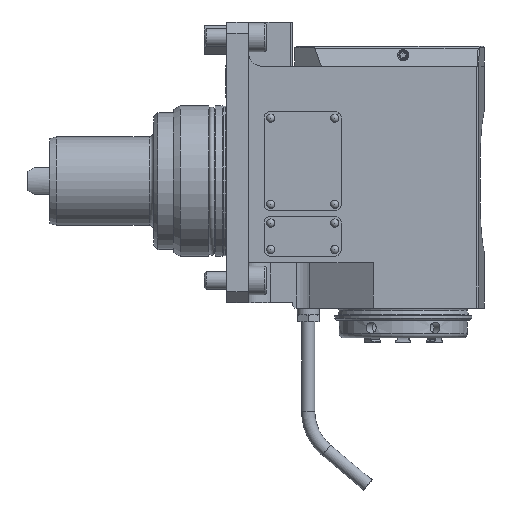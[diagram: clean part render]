
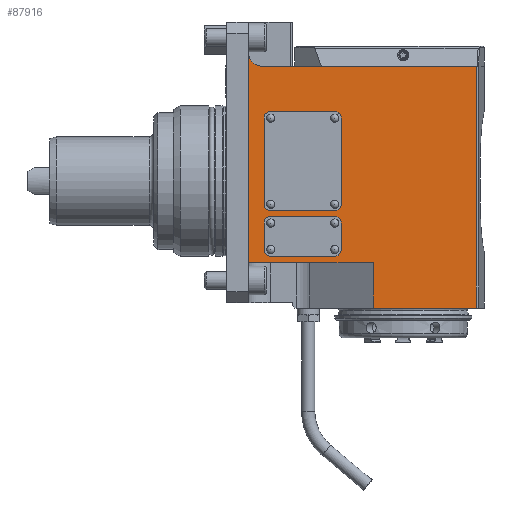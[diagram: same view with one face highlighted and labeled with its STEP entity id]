
A CAD part, front view. The second image highlights one B-rep face of the part: STEP entity #87916.
In plain terms, the highlighted planar face has unit normal (0, -1, 0) as drawn and (0, 0, -1) by its records, which use the part's own axes.
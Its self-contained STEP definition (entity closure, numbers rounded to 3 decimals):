
#1283=VECTOR('',#58977,1.);
#1289=VECTOR('',#58997,1.);
#1291=VECTOR('',#59007,1.);
#1302=VECTOR('',#59028,1.);
#1303=VECTOR('',#59029,1.);
#1304=VECTOR('',#59030,1.);
#2443=LINE('',#77374,#1283);
#2449=LINE('',#77392,#1289);
#2451=LINE('',#77402,#1291);
#2462=LINE('',#77430,#1302);
#2463=LINE('',#77432,#1303);
#2464=LINE('',#77433,#1304);
#35712=PLANE('',#84754);
#39412=ORIENTED_EDGE('',*,*,#47730,.T.);
#39413=ORIENTED_EDGE('',*,*,#47703,.T.);
#39414=ORIENTED_EDGE('',*,*,#47712,.F.);
#39415=ORIENTED_EDGE('',*,*,#47731,.T.);
#39416=ORIENTED_EDGE('',*,*,#47716,.F.);
#39417=ORIENTED_EDGE('',*,*,#47732,.T.);
#39418=ORIENTED_EDGE('',*,*,#47733,.F.);
#39419=ORIENTED_EDGE('',*,*,#47734,.T.);
#39420=ORIENTED_EDGE('',*,*,#47735,.F.);
#39421=ORIENTED_EDGE('',*,*,#47736,.T.);
#39422=ORIENTED_EDGE('',*,*,#47737,.T.);
#39423=ORIENTED_EDGE('',*,*,#47738,.T.);
#39424=ORIENTED_EDGE('',*,*,#47739,.T.);
#39425=ORIENTED_EDGE('',*,*,#47740,.T.);
#39426=ORIENTED_EDGE('',*,*,#47741,.T.);
#39427=ORIENTED_EDGE('',*,*,#47742,.T.);
#43074=CIRCLE('',#84755,6.);
#43075=CIRCLE('',#84756,1.);
#43076=CIRCLE('',#84757,3.);
#43077=CIRCLE('',#84758,1.);
#43078=CIRCLE('',#84759,1.);
#43079=CIRCLE('',#84760,1.);
#43080=CIRCLE('',#84761,1.);
#43081=CIRCLE('',#84762,1.);
#43082=CIRCLE('',#84763,1.);
#43083=CIRCLE('',#84764,1.);
#44991=VERTEX_POINT('',#77371);
#44992=VERTEX_POINT('',#77373);
#44997=VERTEX_POINT('',#77390);
#45000=VERTEX_POINT('',#77400);
#45001=VERTEX_POINT('',#77401);
#45013=VERTEX_POINT('',#77428);
#45014=VERTEX_POINT('',#77431);
#45015=VERTEX_POINT('',#77434);
#45016=VERTEX_POINT('',#77436);
#45017=VERTEX_POINT('',#77438);
#45018=VERTEX_POINT('',#77440);
#45019=VERTEX_POINT('',#77442);
#45020=VERTEX_POINT('',#77444);
#45021=VERTEX_POINT('',#77446);
#45022=VERTEX_POINT('',#77448);
#45023=VERTEX_POINT('',#77450);
#47703=EDGE_CURVE('',#44992,#44991,#2443,.T.);
#47712=EDGE_CURVE('',#44997,#44991,#2449,.T.);
#47716=EDGE_CURVE('',#45000,#45001,#2451,.T.);
#47730=EDGE_CURVE('',#45013,#44992,#43074,.T.);
#47731=EDGE_CURVE('',#44997,#45001,#2462,.T.);
#47732=EDGE_CURVE('',#45000,#45014,#2463,.T.);
#47733=EDGE_CURVE('',#45013,#45014,#2464,.T.);
#47734=EDGE_CURVE('',#45015,#45015,#43075,.T.);
#47735=EDGE_CURVE('',#45016,#45016,#43076,.T.);
#47736=EDGE_CURVE('',#45017,#45017,#43077,.T.);
#47737=EDGE_CURVE('',#45018,#45018,#43078,.T.);
#47738=EDGE_CURVE('',#45019,#45019,#43079,.T.);
#47739=EDGE_CURVE('',#45020,#45020,#43080,.T.);
#47740=EDGE_CURVE('',#45021,#45021,#43081,.T.);
#47741=EDGE_CURVE('',#45022,#45022,#43082,.T.);
#47742=EDGE_CURVE('',#45023,#45023,#43083,.T.);
#50584=EDGE_LOOP('',(#39412,#39413,#39414,#39415,#39416,#39417,#39418));
#50585=EDGE_LOOP('',(#39419));
#50586=EDGE_LOOP('',(#39420));
#50587=EDGE_LOOP('',(#39421));
#50588=EDGE_LOOP('',(#39422));
#50589=EDGE_LOOP('',(#39423));
#50590=EDGE_LOOP('',(#39424));
#50591=EDGE_LOOP('',(#39425));
#50592=EDGE_LOOP('',(#39426));
#50593=EDGE_LOOP('',(#39427));
#53395=FACE_BOUND('',#50584,.T.);
#53396=FACE_BOUND('',#50585,.T.);
#53397=FACE_BOUND('',#50586,.T.);
#53398=FACE_BOUND('',#50587,.T.);
#53399=FACE_BOUND('',#50588,.T.);
#53400=FACE_BOUND('',#50589,.T.);
#53401=FACE_BOUND('',#50590,.T.);
#53402=FACE_BOUND('',#50591,.T.);
#53403=FACE_BOUND('',#50592,.T.);
#53404=FACE_BOUND('',#50593,.T.);
#58977=DIRECTION('',(95.,0.,0.));
#58997=DIRECTION('',(0.,56.419,0.));
#59007=DIRECTION('',(0.,46.706,0.));
#59024=DIRECTION('',(0.,0.,-1.));
#59025=DIRECTION('',(0.,1.,0.));
#59026=DIRECTION('',(0.,0.,1.));
#59027=DIRECTION('',(-6.,0.,0.));
#59028=DIRECTION('',(20.5,0.,0.));
#59029=DIRECTION('',(-109.5,0.,0.));
#59030=DIRECTION('',(0.,-97.125,0.));
#59031=DIRECTION('',(0.,0.,1.));
#59032=DIRECTION('',(-1.,0.,0.));
#59033=DIRECTION('',(0.,0.,-1.));
#59034=DIRECTION('',(3.,0.,0.));
#59035=DIRECTION('',(0.,0.,1.));
#59036=DIRECTION('',(-1.,0.,0.));
#59037=DIRECTION('',(0.,0.,1.));
#59038=DIRECTION('',(-1.,0.,0.));
#59039=DIRECTION('',(0.,0.,1.));
#59040=DIRECTION('',(-1.,0.,0.));
#59041=DIRECTION('',(0.,0.,1.));
#59042=DIRECTION('',(-1.,0.,0.));
#59043=DIRECTION('',(0.,0.,1.));
#59044=DIRECTION('',(-1.,0.,0.));
#59045=DIRECTION('',(0.,0.,1.));
#59046=DIRECTION('',(-1.,0.,0.));
#59047=DIRECTION('',(0.,0.,1.));
#59048=DIRECTION('',(-1.,0.,0.));
#77371=CARTESIAN_POINT('',(37.,30.,-38.));
#77373=CARTESIAN_POINT('',(-58.,30.,-38.));
#77374=CARTESIAN_POINT('',(-58.,30.,-38.));
#77390=CARTESIAN_POINT('',(37.,-26.419,-38.));
#77392=CARTESIAN_POINT('',(37.,-26.419,-38.));
#77400=CARTESIAN_POINT('',(57.5,-73.125,-38.));
#77401=CARTESIAN_POINT('',(57.5,-26.419,-38.));
#77402=CARTESIAN_POINT('',(57.5,-73.125,-38.));
#77427=CARTESIAN_POINT('',(-52.,24.,-38.));
#77428=CARTESIAN_POINT('',(-52.,24.,-38.));
#77429=CARTESIAN_POINT('',(-58.,24.,-38.));
#77430=CARTESIAN_POINT('',(37.,-26.419,-38.));
#77431=CARTESIAN_POINT('',(-52.,-73.125,-38.));
#77432=CARTESIAN_POINT('',(57.5,-73.125,-38.));
#77433=CARTESIAN_POINT('',(-52.,24.,-38.));
#77434=CARTESIAN_POINT('',(30.,-9.,-38.));
#77435=CARTESIAN_POINT('',(31.,-9.,-38.));
#77436=CARTESIAN_POINT('',(31.3,3.,-38.));
#77437=CARTESIAN_POINT('',(28.3,3.,-38.));
#77438=CARTESIAN_POINT('',(-29.5,20.,-38.));
#77439=CARTESIAN_POINT('',(-28.5,20.,-38.));
#77440=CARTESIAN_POINT('',(9.5,20.,-38.));
#77441=CARTESIAN_POINT('',(10.5,20.,-38.));
#77442=CARTESIAN_POINT('',(-29.5,-9.,-38.));
#77443=CARTESIAN_POINT('',(-28.5,-9.,-38.));
#77444=CARTESIAN_POINT('',(9.5,-9.,-38.));
#77445=CARTESIAN_POINT('',(10.5,-9.,-38.));
#77446=CARTESIAN_POINT('',(18.,20.,-38.));
#77447=CARTESIAN_POINT('',(19.,20.,-38.));
#77448=CARTESIAN_POINT('',(30.,20.,-38.));
#77449=CARTESIAN_POINT('',(31.,20.,-38.));
#77450=CARTESIAN_POINT('',(18.,-9.,-38.));
#77451=CARTESIAN_POINT('',(19.,-9.,-38.));
#84754=AXIS2_PLACEMENT_3D('',#77427,#59024,#59025);
#84755=AXIS2_PLACEMENT_3D('',#77429,#59026,#59027);
#84756=AXIS2_PLACEMENT_3D('',#77435,#59031,#59032);
#84757=AXIS2_PLACEMENT_3D('',#77437,#59033,#59034);
#84758=AXIS2_PLACEMENT_3D('',#77439,#59035,#59036);
#84759=AXIS2_PLACEMENT_3D('',#77441,#59037,#59038);
#84760=AXIS2_PLACEMENT_3D('',#77443,#59039,#59040);
#84761=AXIS2_PLACEMENT_3D('',#77445,#59041,#59042);
#84762=AXIS2_PLACEMENT_3D('',#77447,#59043,#59044);
#84763=AXIS2_PLACEMENT_3D('',#77449,#59045,#59046);
#84764=AXIS2_PLACEMENT_3D('',#77451,#59047,#59048);
#87916=ADVANCED_FACE('',(#53395,#53396,#53397,#53398,#53399,#53400,#53401,
#53402,#53403,#53404),#35712,.T.);
